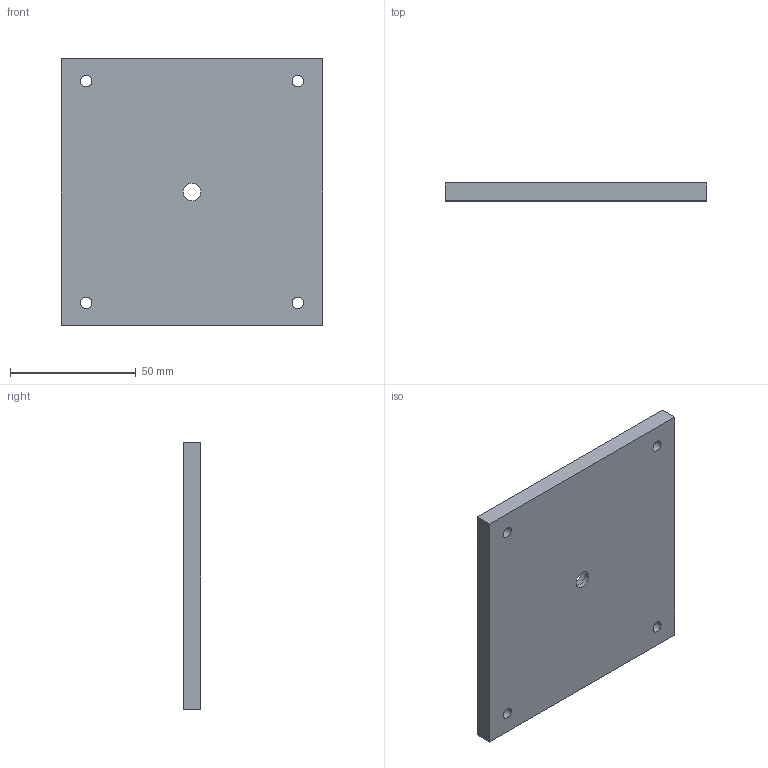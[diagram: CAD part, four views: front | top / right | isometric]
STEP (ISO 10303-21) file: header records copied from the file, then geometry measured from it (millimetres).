
FILE_DESCRIPTION(('Open CASCADE Model'),'2;1');
FILE_NAME('Open CASCADE Shape Model','2026-09-10T23:36:49',('Author'),( 'Open CASCADE'),'Open CASCADE STEP processor 7.9','Open CASCADE 7.9' ,'Unknown');
FILE_SCHEMA(('AUTOMOTIVE_DESIGN { 1 0 10303 214 1 1 1 1 }'));
Length unit declared in the file: millimetre
Products named in the file (1): Open CASCADE STEP translator 7.9 6
Bounding box: 104 x 7 x 106 mm (x, y, z)
Volume: 75482.3 mm3; surface area: 25701.8 mm2
Topology: 1 solids, 1 shells, 19 faces, 39 edges, 26 vertices
Faces by surface type: plane 10, cylinder 9
Full cylindrical faces by diameter (mm): 4.2 x3, 4.5 x4, 7 x1, 15.08 x1
Entity records: 1048 total; most frequent: DIRECTION 175, CARTESIAN_POINT 163, LINE 81, VECTOR 81, ORIENTED_EDGE 78, PCURVE 78, DEFINITIONAL_REPRESENTATION 78, EDGE_CURVE 39
